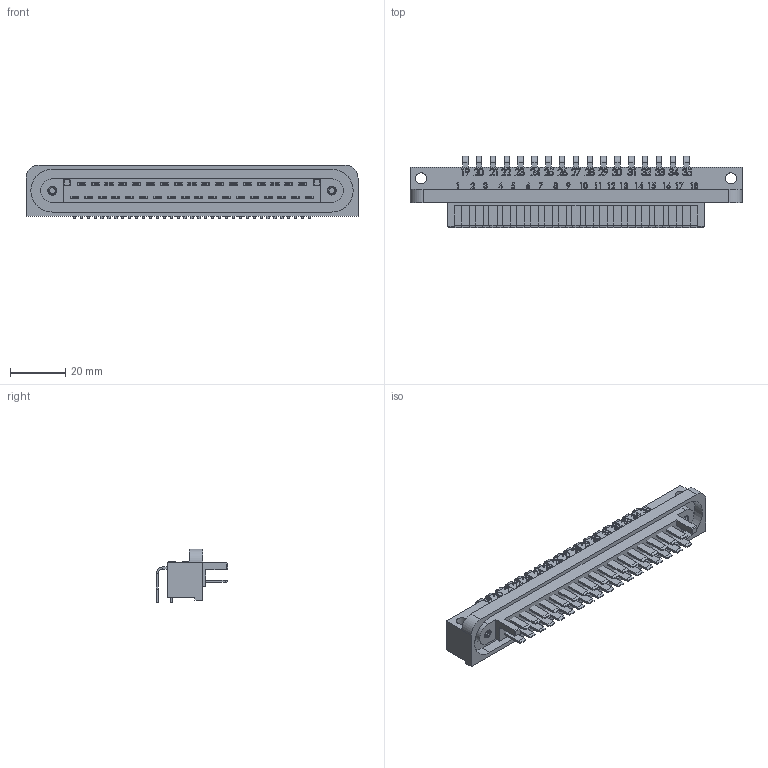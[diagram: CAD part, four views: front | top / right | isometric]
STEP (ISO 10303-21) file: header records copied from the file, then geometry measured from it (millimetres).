
FILE_DESCRIPTION(/* description */ (''),/* implementation_level */ '2;1');
FILE_NAME(/* name */ 'bati_plastique (Assemblage).step',/* time_stamp */ '2026-09-12T18:21:15+02:00',/* author */ (''),/* organization */ (''),/* preprocessor_version */ 'ST-DEVELOPER v20.2',/* originating_system */ 'Autodesk Translation Framework v15.15.0.0',/* authorisation */ '');
FILE_SCHEMA (('AUTOMOTIVE_DESIGN { 1 0 10303 214 3 1 1 }'));
Products named in the file (4): 2026-09-12-10-55-02-464; 2026-09-12-10-46-08-939; 2026-09-12-11-18-08-120; 2026-09-12-11-17-24-995
Assembly tree (36 placements, depth 2):
  2026-09-12-10-55-02-464
    2026-09-12-11-17-24-995  x17
    2026-09-12-11-18-08-120  x18
    2026-09-12-10-46-08-939
Bounding box: 120 x 25.9 x 19.48 mm (x, y, z)
Volume: 17284.2 mm3; surface area: 18316.1 mm2
Topology: 211 solids, 211 shells, 2130 faces, 4864 edges, 3239 vertices
Faces by surface type: plane 1628, bspline 396, cylinder 102, cone 4
Full cylindrical faces by diameter (mm): 2.2 x20, 4 x2
Entity records: 56766 total; most frequent: CARTESIAN_POINT 35862, ORIENTED_EDGE 4976, DIRECTION 2857, EDGE_CURVE 2488, VERTEX_POINT 1655, LINE 1607, VECTOR 1607, EDGE_LOOP 1031
